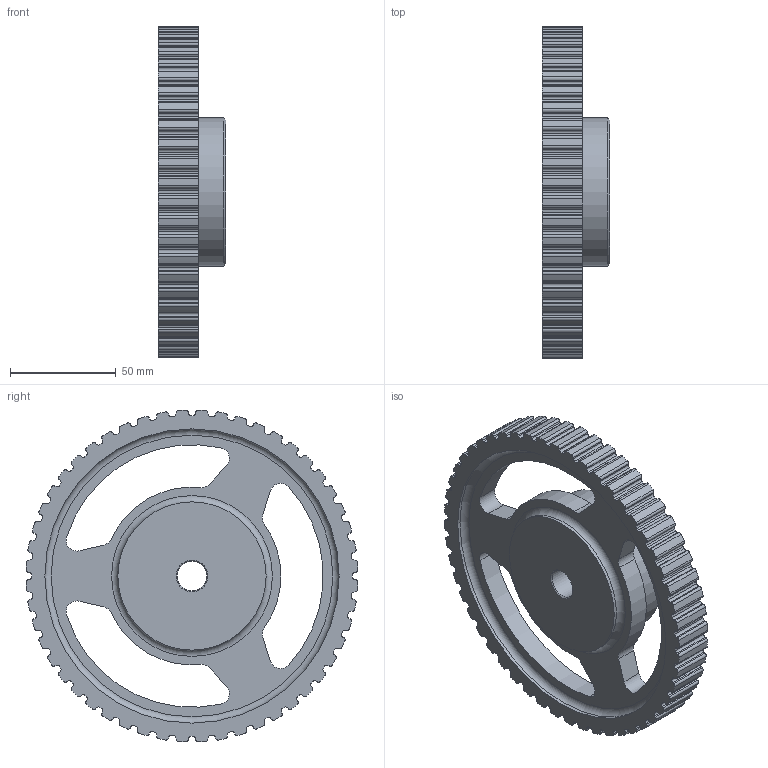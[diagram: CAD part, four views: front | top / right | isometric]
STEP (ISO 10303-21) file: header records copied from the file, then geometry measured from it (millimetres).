
FILE_DESCRIPTION(/* description */ ('PULEGGE 52 L 050 '),/* implementation_level */ '2;1');
FILE_NAME(/* name */ 'w:\documenti\Disegni dwg\Catalogo\Pulegge\L\050\stp\42050052.stp',/* time_stamp */ '2023-05-10T08:45:16+02:00',/* author */ ('carlo.bersi'),/* organization */ (''),/* preprocessor_version */ 'ST-DEVELOPER v19',/* originating_system */ 'Autodesk Inventor 2023',/* authorisation */ '');
FILE_SCHEMA (('CONFIG_CONTROL_DESIGN'));
Length unit declared in the file: millimetre
Products named in the file (1): 42050052
Bounding box: 32 x 156.78 x 156.78 mm (x, y, z)
Volume: 254592.7 mm3; surface area: 54252.1 mm2
Topology: 1 solids, 1 shells, 458 faces, 1353 edges, 901 vertices
Faces by surface type: cylinder 283, plane 168, torus 4, cone 3
Full cylindrical faces by diameter (mm): 14 x1, 70 x2, 139 x2
Entity records: 15593 total; most frequent: DIRECTION 2852, CARTESIAN_POINT 2713, ORIENTED_EDGE 2706, EDGE_CURVE 1353, AXIS2_PLACEMENT_3D 1040, VERTEX_POINT 901, LINE 772, VECTOR 772
